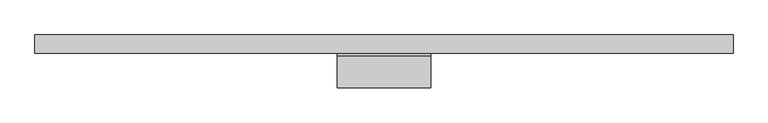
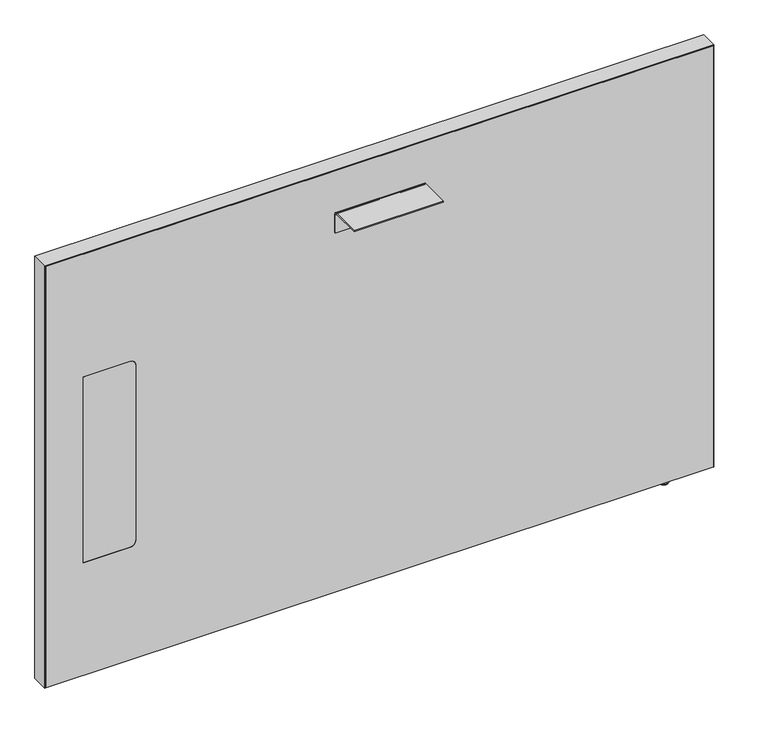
"""IFC4 building model written with IfcOpenShell, lengths in millimetres: furniture geometry, Steelcase - Answer Solution - Boundary Screen - Straight - Single Sided : 30H x 45W."""

from ifc_helpers import new_model, si_unit, point, frame, frame_2d, origin, place, context, project, spatial, polyline, circle_curve, ellipse_curve, trimmed, segment, composite_curve, outline, extrude, source, transform, mapped, element, save
from ifc_brep_helpers import plane_surface, cylinder_surface, revolved_surface, advanced_brep


def furniture_63014aa6(model_context):
    return source(origin(), model_context, "Body", "SolidModel", [
        extrude(outline(composite_curve([segment(polyline([(-86.8398151, 696.4680019), (-86.8398151, 698.5), (-34.9450855, 698.5)]), True, "CONTINUOUS"), segment(trimmed(circle_curve(frame_2d((-34.9450855, 693.2447477)), 5.2552523), [point((-34.9450855, 698.5))], [point((-29.6898332, 693.2447477))], False, "CARTESIAN"), True, "CONTINUOUS"), segment(polyline([(-29.6898332, 693.2447477), (-29.6898332, 660.4), (-31.7218162, 660.4), (-31.7218162, 693.0058743)]), True, "CONTINUOUS"), segment(trimmed(circle_curve(frame_2d((-35.1839438, 693.0058743)), 3.4621276), [point((-31.7218162, 693.0058743))], [point((-35.1839438, 696.4680019))], True, "CARTESIAN"), True, "CONTINUOUS"), segment(polyline([(-35.1839438, 696.4680019), (-86.8398151, 696.4680019)]), True, "CONTINUOUS")], self_intersect=False)), frame((-151.1808593, 0.0, 0.0), z_axis=(1.0, 0.0, 0.0), x_axis=(0.0, 1.0, 0.0)), (0.0, 0.0, 1.0), 152.4000969),
        advanced_brep(
        [(419.3286488, -23.7588726, 9.9059849), (419.3286488, -5.9309607, 9.9059849), (419.3286488, -14.8449166, 9.9059849), (419.3286488, -23.7588726, 2.9673238), (419.3286488, -5.9309607, 2.9673238), (419.3286488, -22.7915354, 2.9673238), (419.3286488, -6.8982978, 2.9673238), (419.3286488, -22.7915354, 1.6569081), (419.3286488, -6.8982978, 1.6569081), (419.3286488, -21.1346274, 0.0), (419.3286488, -8.5552059, 0.0), (419.3286488, -14.8449166, 0.0)],
        [
            (0, 1, circle_curve(frame((419.3286488, -14.8449166, 9.9059849), z_axis=(0.0, 0.0, 1.0), x_axis=(0.0, 1.0, 0.0)), 8.913956)),
            (1, 2),
            (2, 0),
            (1, 0, circle_curve(frame((419.3286488, -14.8449166, 9.9059849), z_axis=(0.0, 0.0, 1.0), x_axis=(0.0, 1.0, 0.0)), 8.913956)),
            (3, 4, circle_curve(frame((419.3286488, -14.8449166, 2.9673238), z_axis=(0.0, 0.0, 1.0), x_axis=(0.0, 1.0, 0.0)), 8.913956)),
            (4, 1),
            (0, 3),
            (4, 3, circle_curve(frame((419.3286488, -14.8449166, 2.9673238), z_axis=(0.0, 0.0, 1.0), x_axis=(0.0, 1.0, 0.0)), 8.913956)),
            (5, 6, circle_curve(frame((419.3286488, -14.8449166, 2.9673238), z_axis=(0.0, 0.0, 1.0), x_axis=(0.0, 1.0, 0.0)), 7.9466188)),
            (6, 4),
            (3, 5),
            (6, 5, circle_curve(frame((419.3286488, -14.8449166, 2.9673238), z_axis=(0.0, 0.0, 1.0), x_axis=(0.0, 1.0, 0.0)), 7.9466188)),
            (7, 8, circle_curve(frame((419.3286488, -14.8449166, 1.6569081), z_axis=(0.0, 0.0, 1.0), x_axis=(0.0, 1.0, 0.0)), 7.9466188)),
            (8, 6),
            (5, 7),
            (8, 7, circle_curve(frame((419.3286488, -14.8449166, 1.6569081), z_axis=(0.0, 0.0, 1.0), x_axis=(0.0, 1.0, 0.0)), 7.9466188)),
            (9, 10, circle_curve(frame((419.3286488, -14.8449166, 0.0), z_axis=(0.0, 0.0, 1.0), x_axis=(0.0, 1.0, 0.0)), 6.2897107)),
            (10, 8, circle_curve(frame((419.3286488, -8.5552059, 1.6569081), z_axis=(1.0, 0.0, 0.0), x_axis=(0.0, 1.0, 0.0)), 1.6569081)),
            (7, 9, circle_curve(frame((419.3286488, -21.1346274, 1.6569081), z_axis=(1.0, 0.0, 0.0), x_axis=(0.0, -1.0, 0.0)), 1.6569081)),
            (10, 9, circle_curve(frame((419.3286488, -14.8449166, 0.0), z_axis=(0.0, 0.0, 1.0), x_axis=(0.0, 1.0, 0.0)), 6.2897107)),
            (11, 10),
            (9, 11),
        ],
        [
            plane_surface(frame((419.3286488, -14.8449166, 9.9059849), z_axis=(0.0, 0.0, 1.0), x_axis=(0.0, 1.0, 0.0))),
            cylinder_surface(frame((419.3286488, -14.8449166, 9.9059849), z_axis=(0.0, 0.0, -1.0), x_axis=(0.0, 1.0, 0.0)), 8.913956),
            plane_surface(frame((419.3286488, -14.8449166, 2.9673238), z_axis=(0.0, 0.0, -1.0), x_axis=(0.0, 1.0, 0.0))),
            cylinder_surface(frame((419.3286488, -14.8449166, 9.9059849), z_axis=(0.0, 0.0, -1.0), x_axis=(0.0, 1.0, 0.0)), 7.9466188),
            revolved_surface(trimmed(ellipse_curve(frame((419.3286488, -8.5552059, 1.6569081), z_axis=(-1.0, 0.0, 0.0), x_axis=(0.0, 1.0, 0.0)), 1.6569081, 1.6569081), [point((419.3286488, -6.8982978, 1.6569081))], [point((419.3286488, -8.5552059, 0.0))], True, "CARTESIAN"), (419.3286488, -14.8449166, 9.9059849), (0.0, 0.0, -1.0)),
            plane_surface(frame((419.3286488, -14.8449166, 0.0), z_axis=(0.0, 0.0, -1.0), x_axis=(0.0, 1.0, 0.0))),
        ],
        [
            (0, [[1, 2, 3]]),
            (0, [[4, -3, -2]]),
            (1, [[5, 6, -1, 7]]),
            (1, [[8, -7, -4, -6]]),
            (2, [[9, 10, -5, 11]]),
            (2, [[12, -11, -8, -10]]),
            (3, [[13, 14, -9, 15]]),
            (3, [[16, -15, -12, -14]]),
            (4, [[17, 18, -13, 19]]),
            (4, [[20, -19, -16, -18]]),
            (5, [[21, -17, 22]]),
            (5, [[-22, -20, -21]]),
        ],
    ),
        advanced_brep(
        [(495.4780168, 0.0, 771.942118), (495.4780168, 0.0, 9.9059849), (-645.4902221, 0.0, 9.9059849), (-645.4902221, 0.0, 771.942118), (495.4780168, -29.6898332, 771.942118), (-645.4902221, -29.6898332, 771.942118), (-645.4902221, -29.6898332, 9.9059849), (495.4780168, -29.6898332, 9.9059849), (-501.1463873, -29.6898332, 549.6162029), (-490.9863873, -29.6898332, 539.4562029), (-490.9863873, -29.6898332, 223.9362137), (-501.1463873, -29.6898332, 213.7762137), (-580.800285, -29.6898332, 213.7762137), (-580.800285, -29.6898332, 549.6162029), (-580.800285, -29.0550397, 549.6162029), (-501.1463873, -29.0550397, 549.6162029), (-580.800285, -29.0550397, 213.7762137), (-501.1463873, -29.0550397, 213.7762137), (-490.9863873, -29.0550397, 223.9362137), (-490.9863873, -29.0550397, 539.4562029)],
        [
            (0, 1),
            (1, 2),
            (2, 3),
            (3, 0),
            (4, 5),
            (5, 6),
            (6, 7),
            (7, 4),
            (8, 9, circle_curve(frame((-501.1463873, -29.6898332, 539.4562029), z_axis=(0.0, 1.0, 0.0), x_axis=(0.0, 0.0, 1.0)), 10.16)),
            (9, 10),
            (10, 11, circle_curve(frame((-501.1463873, -29.6898332, 223.9362137), z_axis=(0.0, 1.0, 0.0), x_axis=(0.0, 0.0, 1.0)), 10.16)),
            (11, 12),
            (12, 13),
            (13, 8),
            (0, 4),
            (7, 1),
            (6, 2),
            (5, 3),
            (13, 14),
            (14, 15),
            (15, 8),
            (12, 16),
            (16, 14),
            (11, 17),
            (17, 16),
            (10, 18),
            (18, 17, circle_curve(frame((-501.1463873, -29.0550397, 223.9362137), z_axis=(0.0, 1.0, 0.0), x_axis=(0.0, 0.0, 1.0)), 10.16)),
            (9, 19),
            (19, 18),
            (15, 19, circle_curve(frame((-501.1463873, -29.0550397, 539.4562029), z_axis=(0.0, 1.0, 0.0), x_axis=(0.0, 0.0, 1.0)), 10.16)),
        ],
        [
            plane_surface(frame((495.4780168, 0.0, 771.942118), z_axis=(0.0, 1.0, 0.0), x_axis=(0.0, 0.0, -1.0))),
            plane_surface(frame((495.4780168, -29.6898332, 771.942118), z_axis=(0.0, -1.0, 0.0), x_axis=(0.0, 0.0, 1.0))),
            plane_surface(frame((495.4780168, 0.0, 771.942118), z_axis=(1.0, 0.0, 0.0), x_axis=(0.0, -1.0, 0.0))),
            plane_surface(frame((495.4780168, 0.0, 9.9059849), z_axis=(0.0, 0.0, -1.0), x_axis=(0.0, -1.0, 0.0))),
            plane_surface(frame((-645.4902221, 0.0, 9.9059849), z_axis=(-1.0, 0.0, 0.0), x_axis=(0.0, -1.0, 0.0))),
            plane_surface(frame((-645.4902221, 0.0, 771.942118), z_axis=(0.0, 0.0, 1.0), x_axis=(0.0, -1.0, 0.0))),
            plane_surface(frame((-501.1463873, 0.0, 549.6162029), z_axis=(0.0, 0.0, -1.0), x_axis=(0.0, -1.0, 0.0))),
            plane_surface(frame((-580.800285, 0.0, 549.6162029), z_axis=(1.0, 0.0, 0.0), x_axis=(0.0, -1.0, 0.0))),
            plane_surface(frame((-580.800285, 0.0, 213.7762137), z_axis=(0.0, 0.0, 1.0), x_axis=(0.0, -1.0, 0.0))),
            revolved_surface(polyline([(-501.1463873, -29.6898332, 234.0962137), (-501.1463873, -29.0550397, 234.0962137)]), (-501.1463873, -29.6898332, 223.9362137), (0.0, -1.0, 0.0)),
            plane_surface(frame((-490.9863873, 0.0, 223.9362137), z_axis=(-1.0, 0.0, 0.0), x_axis=(0.0, -1.0, 0.0))),
            revolved_surface(polyline([(-501.1463873, -29.6898332, 549.6162029), (-501.1463873, -29.0550397, 549.6162029)]), (-501.1463873, -29.6898332, 539.4562029), (0.0, -1.0, 0.0)),
            plane_surface(frame((-490.9863873, -29.0550397, 629.172953), z_axis=(0.0, -1.0, 0.0), x_axis=(0.0, 0.0, 1.0))),
        ],
        [
            (0, [[1, 2, 3, 4]]),
            (1, [[5, 6, 7, 8], [9, 10, 11, 12, 13, 14]]),
            (2, [[-1, 15, -8, 16]]),
            (3, [[-2, -16, -7, 17]]),
            (4, [[-3, -17, -6, 18]]),
            (5, [[-4, -18, -5, -15]]),
            (6, [[-14, 19, 20, 21]]),
            (7, [[-13, 22, 23, -19]]),
            (8, [[-12, 24, 25, -22]]),
            (9, [[-11, 26, 27, -24]]),
            (10, [[-10, 28, 29, -26]]),
            (11, [[-9, -21, 30, -28]]),
            (12, [[-20, -23, -25, -27, -29, -30]]),
        ],
    ),
        extrude(outline(composite_curve([segment(polyline([(549.6162029, -501.1463873), (549.6162029, -580.800285), (213.7762137, -580.800285), (213.7762137, -501.1463873)]), True, "CONTINUOUS"), segment(trimmed(circle_curve(frame_2d((223.9362137, -501.1463873)), 10.16), [point((213.7762137, -501.1463873))], [point((223.9362137, -490.9863873))], False, "CARTESIAN"), True, "CONTINUOUS"), segment(polyline([(223.9362137, -490.9863873), (539.4562029, -490.9863873)]), True, "CONTINUOUS"), segment(trimmed(circle_curve(frame_2d((539.4562029, -501.1463873)), 10.16), [point((539.4562029, -490.9863873))], [point((549.6162029, -501.1463873))], False, "CARTESIAN"), True, "CONTINUOUS")], self_intersect=False)), frame((0.0, -29.6898332, 0.0), z_axis=(0.0, 1.0, 0.0), x_axis=(0.0, 0.0, 1.0)), (0.0, 0.0, 1.0), 0.6347935),
        extrude(outline(polyline([(772.922, 496.5191891), (772.922, -646.4808109), (9.9059849, -646.4808109), (9.9059849, -645.4902221), (771.942118, -645.4902221), (771.942118, 495.4780168), (9.9059849, 495.4780168), (9.9059849, 496.5191891), (772.922, 496.5191891)])), frame((0.0, -29.6898332, 0.0), z_axis=(0.0, 1.0, 0.0), x_axis=(0.0, 0.0, 1.0)), (0.0, 0.0, 1.0), 29.6898332),
    ])


if __name__ == "__main__":
    model = new_model("IFC4")
    model_context = context("Model", 3, world=origin())
    ifc_project = project(units=[si_unit("LENGTHUNIT", "METRE", prefix="MILLI")], contexts=[model_context])
    site = spatial("IfcSite", under=ifc_project)
    building = spatial("IfcBuilding", under=site)
    placement = place(None, origin())
    furniture_shape = furniture_63014aa6(model_context)
    element("IfcFurniture", 1, ObjectType="Steelcase - Answer Solution - Boundary Screen - Straight - Single Sided : 30H x 45W", at=placement, inside=building, context=model_context, shape_type="MappedRepresentation", body=[
        mapped(furniture_shape, transform((0.0, 0.0, 0.0), x_axis=(1.0, 0.0, 0.0), y_axis=(0.0, 1.0, 0.0), z_axis=(0.0, 0.0, 1.0))),
    ])
    save(model, "model.ifc")
